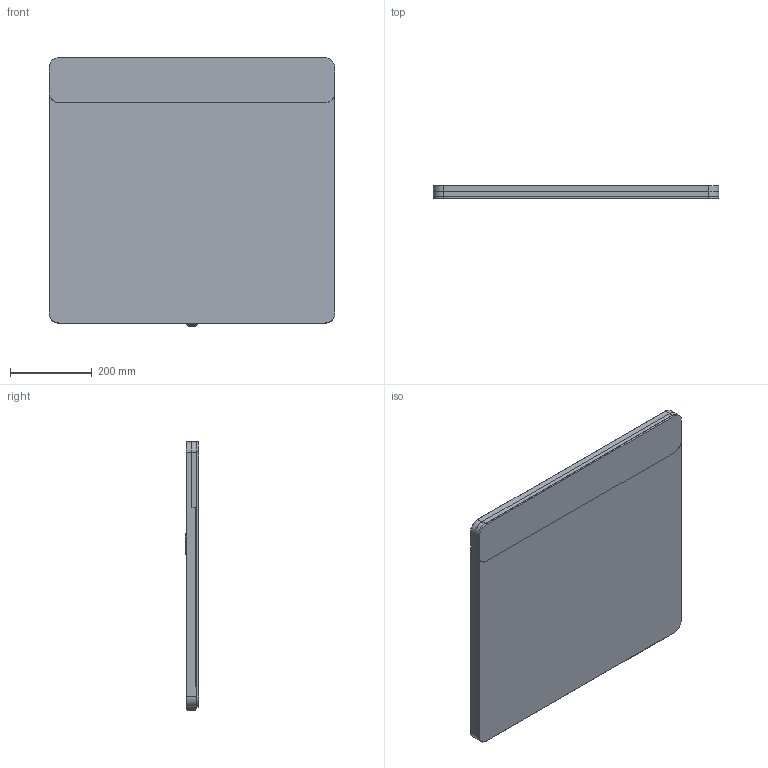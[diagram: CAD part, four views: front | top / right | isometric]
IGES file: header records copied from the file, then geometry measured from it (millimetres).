
Global section: file name: 819270000; native system: Autodesk Inventor 2018; preprocessor: unknown; date: 20200306.075936; units: millimetre
Bounding box: 700 x 32.01 x 657.5 mm (x, y, z)
Volume: 2697790.2 mm3; surface area: 1380233.9 mm2
Topology: 13 solids, 13 shells, 329 faces, 852 edges, 543 vertices
Faces by surface type: bspline 329
